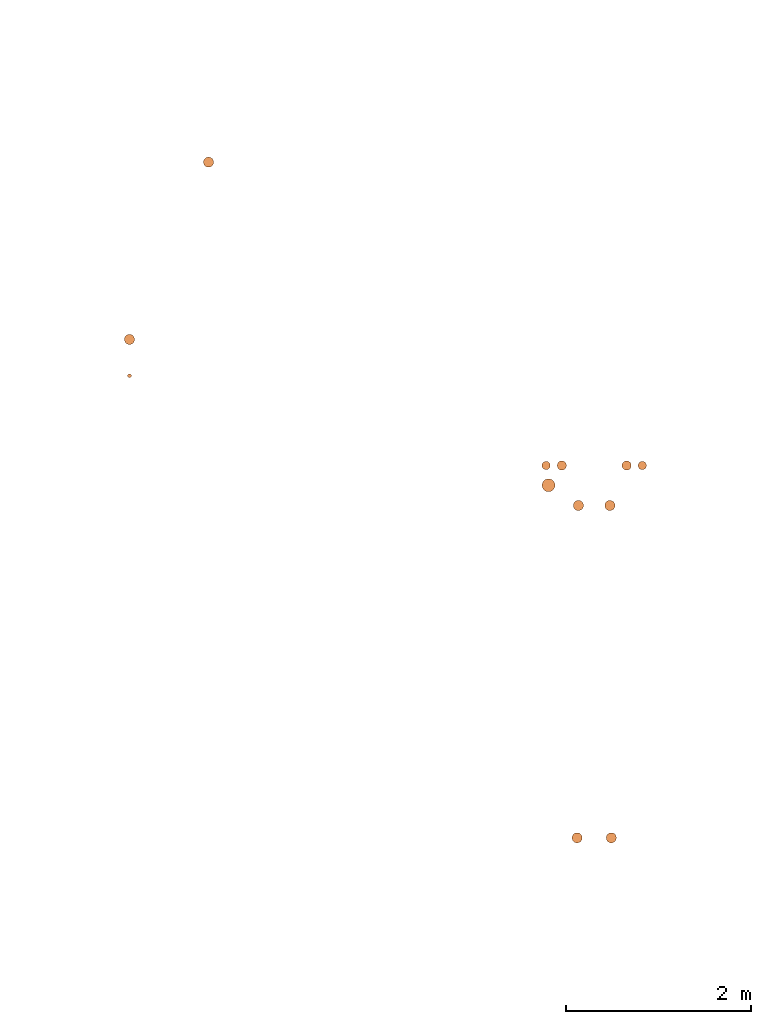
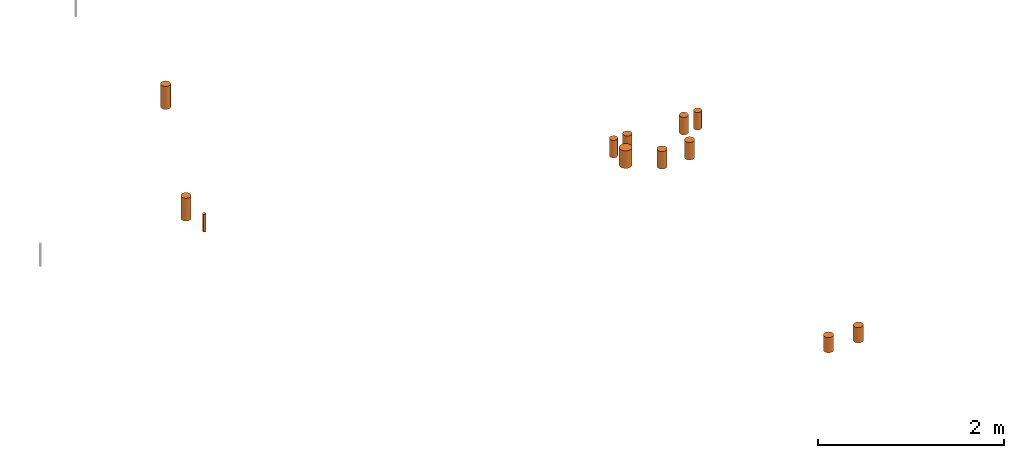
# One storey, part 8 of 16: 12 proxies.
"""IFC2X3 building model written with IfcOpenShell, lengths in centimetres."""

import ifcopenshell
import ifcopenshell.guid

model = None  # the IFC model being written
_history = None  # IfcOwnerHistory: only IFC2X3 demands one
_inside = {}  # id of a spatial element -> (the spatial element, [elements in it])
_under = {}  # id of a project, library or spatial element -> (it, [spatial elements below it])
_declared = {}  # id of a project -> (the project, [libraries it declares])
_typed = {}  # id of a type object -> (the type object, [elements of that type])
_made_of = {}  # id of a material, layer set ... -> (it, [elements and type objects made of it])


def new_model(schema):
    """Start an empty IFC model of exactly this schema.

    Asked for "IFC4X3", IfcOpenShell would pick the latest addendum, in which some entities
    have other attributes; the version numbers below select the first issue.
    IFC2X3 requires an IfcOwnerHistory on every rooted entity: one is made here for all.
    """
    global model, _history
    if schema == "IFC4X3":
        model = ifcopenshell.file(schema_version=(4, 3, 0, 0))
    else:
        model = ifcopenshell.file(schema=schema)
    _inside.clear()
    _under.clear()
    _declared.clear()
    _typed.clear()
    _made_of.clear()
    _history = None
    if model.schema == "IFC2X3":
        org = make("IfcOrganization", Name="unknown")
        user = make(
            "IfcPersonAndOrganization",
            ThePerson=make("IfcPerson", FamilyName="unknown"),
            TheOrganization=org,
        )
        app = make(
            "IfcApplication",
            ApplicationDeveloper=org,
            Version="unknown",
            ApplicationFullName="unknown",
            ApplicationIdentifier="unknown",
        )
        _history = make(
            "IfcOwnerHistory",
            OwningUser=user,
            OwningApplication=app,
            ChangeAction="ADDED",
            CreationDate=0,
        )
    return model


def make(cls, **values):
    """One entity of the class cls with the attributes given. An attribute that is None is left unset."""
    return model.create_entity(
        cls, **{name: value for name, value in values.items() if value is not None}
    )


def entity(cls, *values):
    """Any entity or typed value of the class cls, its attributes in the order of the schema. None: left unset."""
    e = model.create_entity(cls)
    for i, value in enumerate(values):
        if value is not None:
            e[i] = value
    return e


def rooted(cls, **values):
    """An entity with a GlobalId (a new one), such as an element, a storey or a relation."""
    return make(cls, GlobalId=ifcopenshell.guid.new(), OwnerHistory=_history, **values)


def si_unit(unit_type, name, prefix=None):
    """IfcSIUnit, for example si_unit("LENGTHUNIT", "METRE", prefix="MILLI")."""
    return make("IfcSIUnit", UnitType=unit_type, Prefix=prefix, Name=name)


def converted_unit(unit_type, name, factor, base, dimensions=None, offset=None):
    """IfcConversionBasedUnit, such as the inch: factor (a typed value) times the base unit."""
    return make(
        "IfcConversionBasedUnit"
        if offset is None
        else "IfcConversionBasedUnitWithOffset",
        ConversionOffset=offset,
        Dimensions=None
        if dimensions is None
        else entity("IfcDimensionalExponents", *dimensions),
        UnitType=unit_type,
        Name=name,
        ConversionFactor=make(
            "IfcMeasureWithUnit", ValueComponent=factor, UnitComponent=base
        ),
    )


def derived_unit(unit_type, elements):
    """IfcDerivedUnit: a product of units, each with its exponent."""
    return make(
        "IfcDerivedUnit",
        Elements=[
            make("IfcDerivedUnitElement", Unit=unit, Exponent=power)
            for unit, power in elements
        ],
        UnitType=unit_type,
    )


def assignment(units):
    """IfcUnitAssignment: the units of a project."""
    return None if units is None else make("IfcUnitAssignment", Units=units)


def point(xyz):
    """IfcCartesianPoint."""
    return None if xyz is None else make("IfcCartesianPoint", Coordinates=xyz)


def direction(xyz):
    """IfcDirection."""
    return None if xyz is None else make("IfcDirection", DirectionRatios=xyz)


def frame(location, z_axis=None, x_axis=None):
    """IfcAxis2Placement3D, a coordinate frame: its origin and axes. An axis left out is left unset."""
    return make(
        "IfcAxis2Placement3D",
        Location=point(location),
        Axis=direction(z_axis),
        RefDirection=direction(x_axis),
    )


def frame_2d(location, x_axis=None):
    """IfcAxis2Placement2D, a coordinate frame in the plane: its origin and x axis."""
    return make(
        "IfcAxis2Placement2D", Location=point(location), RefDirection=direction(x_axis)
    )


def origin():
    """The frame at (0, 0, 0) with its axes left unset."""
    return frame((0.0, 0.0, 0.0))


def origin_2d_with_axis():
    """The frame at (0, 0) in the plane with the x axis (1, 0) written out."""
    return frame_2d((0.0, 0.0), x_axis=(1.0, 0.0))


def place(relative_to, where):
    """IfcLocalPlacement: puts the frame where relative to a parent placement (None: the world)."""
    return make(
        "IfcLocalPlacement", PlacementRelTo=relative_to, RelativePlacement=where
    )


def context(
    kind, dimensions, precision=None, world=None, true_north=None, identifier=None
):
    """IfcGeometricRepresentationContext, for example the 3D "Model" context."""
    return make(
        "IfcGeometricRepresentationContext",
        ContextIdentifier=identifier,
        ContextType=kind,
        CoordinateSpaceDimension=dimensions,
        Precision=precision,
        WorldCoordinateSystem=world,
        TrueNorth=true_north,
    )


def subcontext(parent, identifier, kind, view, scale=None):
    """IfcGeometricRepresentationSubContext, for example "Body" below "Model"."""
    return make(
        "IfcGeometricRepresentationSubContext",
        ContextIdentifier=identifier,
        ContextType=kind,
        ParentContext=parent,
        TargetScale=scale,
        TargetView=view,
    )


def project(units=None, contexts=None):
    """IfcProject with its units and contexts."""
    return rooted(
        "IfcProject",
        Name="project",
        RepresentationContexts=contexts,
        UnitsInContext=assignment(units),
    )


def spatial(cls, under=None, at=None, **own):
    """A site, building, storey or space (cls), placed at a placement, below another one or the project."""
    s = rooted(cls, ObjectPlacement=at, **own)
    if under is not None:
        _under.setdefault(under.id(), (under, []))[1].append(s)
    return s


def profile(cls, at=None, kind="AREA", **sizes):
    """A parametric profile (cls). Its sizes go by their IFC names, for example OverallWidth=200.0."""
    return make(cls, ProfileType=kind, Position=at, **sizes)


def circle(**sizes):
    """IfcCircleProfileDef."""
    return profile("IfcCircleProfileDef", **sizes)


def extrude(swept, where, along, depth):
    """IfcExtrudedAreaSolid: the profile swept, set in the frame where, extruded along a direction by depth."""
    return make(
        "IfcExtrudedAreaSolid",
        SweptArea=swept,
        Position=where,
        ExtrudedDirection=direction(along),
        Depth=depth,
    )


def shape(context_of_items, identifier, shape_type, items):
    """IfcShapeRepresentation: the items that make up one representation, for example the "Body"."""
    return make(
        "IfcShapeRepresentation",
        ContextOfItems=context_of_items,
        RepresentationIdentifier=identifier,
        RepresentationType=shape_type,
        Items=items,
    )


def source(mapping_origin, context_of_items, identifier, shape_type, items):
    """IfcRepresentationMap: a shape defined once, which mapped items show again and again."""
    return make(
        "IfcRepresentationMap",
        MappingOrigin=mapping_origin,
        MappedRepresentation=shape(context_of_items, identifier, shape_type, items),
    )


def transform(
    local_origin,
    x_axis=None,
    y_axis=None,
    z_axis=None,
    scale=None,
    scale2=None,
    scale3=None,
    uniform=True,
):
    """IfcCartesianTransformationOperator3D, or its non-uniform kind. x_axis, y_axis, z_axis: its Axis1, 2, 3."""
    if uniform:
        return make(
            "IfcCartesianTransformationOperator3D",
            Axis1=direction(x_axis),
            Axis2=direction(y_axis),
            LocalOrigin=point(local_origin),
            Scale=scale,
            Axis3=direction(z_axis),
        )
    return make(
        "IfcCartesianTransformationOperator3DnonUniform",
        Axis1=direction(x_axis),
        Axis2=direction(y_axis),
        LocalOrigin=point(local_origin),
        Scale=scale,
        Axis3=direction(z_axis),
        Scale2=scale2,
        Scale3=scale3,
    )


def mapped(mapping_source, mapping_target):
    """IfcMappedItem: shows the shape of a source again, moved by a transform."""
    return make(
        "IfcMappedItem", MappingSource=mapping_source, MappingTarget=mapping_target
    )


def material(Name=None, Category=None):
    """IfcMaterial."""
    return make("IfcMaterial", Name=Name, Category=Category)


def made_of(thing, what):
    """Note that an element or type object is made of a material, layer set ...; save() writes the relation."""
    if what is not None:
        _made_of.setdefault(what.id(), (what, []))[1].append(thing)
    return thing


def type_object(cls, material=None, **own):
    """A type object (cls), such as IfcWallType, which elements share."""
    return made_of(rooted(cls, **own), material)


def type_shapes(of_type, sources):
    """Give a type object the sources (RepresentationMaps) that its elements show as mapped items."""
    of_type.RepresentationMaps = sources


def element(
    cls,
    number,
    at=None,
    inside=None,
    cuts=None,
    type_object=None,
    material=None,
    context=None,
    identifier="Body",
    shape_type=None,
    held_by="IfcProductDefinitionShape",
    body=None,
    shapes=None,
    **own,
):
    """One element of the class cls, such as IfcWall. Its Tag is "e" and its number.

    at: its placement. inside: the storey or other place that contains it. cuts: it is an
    opening in that element (IfcRelVoidsElement). A single representation is given by context,
    identifier, shape_type and body (its items); several are given by shapes. held_by: the class
    of the entity that holds the representations. save() writes the other relations.
    """
    e = rooted(cls, Tag="e%d" % number, ObjectPlacement=at, **own)
    if body is not None:
        shapes = [shape(context, identifier, shape_type, body)]
    if shapes is not None:
        e.Representation = make(held_by, Representations=shapes)
    if inside is not None:
        _inside.setdefault(inside.id(), (inside, []))[1].append(e)
    if cuts is not None:
        rooted(
            "IfcRelVoidsElement", RelatingBuildingElement=cuts, RelatedOpeningElement=e
        )
    if type_object is not None:
        _typed.setdefault(type_object.id(), (type_object, []))[1].append(e)
    return made_of(e, material)


def aggregate(whole, parts):
    """IfcRelAggregates: a whole, such as a stair, and the parts it consists of."""
    return rooted("IfcRelAggregates", RelatingObject=whole, RelatedObjects=parts)


def save(model, path):
    """Write the relations noted so far, then the file.

    IfcRelAggregates (storeys below a building ...), IfcRelContainedInSpatialStructure (elements
    in a storey), IfcRelDefinesByType, IfcRelAssociatesMaterial and IfcRelDeclares: one each for
    every whole, place, type object, material and project.
    """
    for whole, parts in _under.values():
        aggregate(whole, parts)
    for where, things in _inside.values():
        rooted(
            "IfcRelContainedInSpatialStructure",
            RelatedElements=things,
            RelatingStructure=where,
        )
    for kind, things in _typed.values():
        rooted("IfcRelDefinesByType", RelatedObjects=things, RelatingType=kind)
    for what, things in _made_of.values():
        rooted("IfcRelAssociatesMaterial", RelatedObjects=things, RelatingMaterial=what)
    for by, libraries in _declared.values():
        rooted("IfcRelDeclares", RelatingContext=by, RelatedDefinitions=libraries)
    model.write(path)


model = new_model("IFC2X3")

# Units and contexts
model_context = context("Model", 3, precision=0.001, world=origin(), true_north=direction((6.12303176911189e-17, 1.0)))
body_context = subcontext(model_context, "Body", "Model", "MODEL_VIEW")
ifc_project = project(units=[si_unit("LENGTHUNIT", "METRE", prefix="CENTI"), si_unit("AREAUNIT", "SQUARE_METRE"), si_unit("VOLUMEUNIT", "CUBIC_METRE"), converted_unit("PLANEANGLEUNIT", "DEGREE", entity("IfcRatioMeasure", 0.0174532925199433), si_unit("PLANEANGLEUNIT", "RADIAN"), dimensions=[0, 0, 0, 0, 0, 0, 0]), si_unit("MASSUNIT", "GRAM", prefix="KILO"), derived_unit("MASSDENSITYUNIT", [(si_unit("MASSUNIT", "GRAM", prefix="KILO"), 1), (si_unit("LENGTHUNIT", "METRE"), -3)]), si_unit("TIMEUNIT", "SECOND"), si_unit("FREQUENCYUNIT", "HERTZ"), si_unit("THERMODYNAMICTEMPERATUREUNIT", "DEGREE_CELSIUS"), derived_unit("THERMALTRANSMITTANCEUNIT", [(si_unit("MASSUNIT", "GRAM", prefix="KILO"), 1), (si_unit("THERMODYNAMICTEMPERATUREUNIT", "KELVIN"), -1), (si_unit("TIMEUNIT", "SECOND"), -3)]), derived_unit("VOLUMETRICFLOWRATEUNIT", [(si_unit("LENGTHUNIT", "METRE"), 3), (si_unit("TIMEUNIT", "SECOND"), -1)]), si_unit("ELECTRICCURRENTUNIT", "AMPERE"), si_unit("ELECTRICVOLTAGEUNIT", "VOLT"), si_unit("POWERUNIT", "WATT"), si_unit("FORCEUNIT", "NEWTON"), si_unit("ILLUMINANCEUNIT", "LUX"), si_unit("LUMINOUSFLUXUNIT", "LUMEN"), si_unit("LUMINOUSINTENSITYUNIT", "CANDELA"), derived_unit("USERDEFINED", [(si_unit("MASSUNIT", "GRAM", prefix="KILO"), -1), (si_unit("LENGTHUNIT", "METRE"), -2), (si_unit("TIMEUNIT", "SECOND"), 3), (si_unit("LUMINOUSFLUXUNIT", "LUMEN"), 1)]), derived_unit("LINEARVELOCITYUNIT", [(si_unit("LENGTHUNIT", "METRE"), 1), (si_unit("TIMEUNIT", "SECOND"), -1)]), si_unit("PRESSUREUNIT", "PASCAL"), derived_unit("USERDEFINED", [(si_unit("LENGTHUNIT", "METRE"), -2), (si_unit("MASSUNIT", "GRAM", prefix="KILO"), 1), (si_unit("TIMEUNIT", "SECOND"), -2)])], contexts=[model_context])

# Site, building, storey
site_placement = place(None, origin())
site = spatial("IfcSite", under=ifc_project, at=site_placement, Name="Default", CompositionType="ELEMENT")
building_placement = place(site_placement, origin())
building = spatial("IfcBuilding", under=site, at=building_placement, Name="CAGE 03", CompositionType="ELEMENT")
storey_placement = place(building_placement, frame((0.0, 0.0, 65.0)))
storey = spatial("IfcBuildingStorey", under=building, at=storey_placement, Name="Ac RDC", CompositionType="ELEMENT", Elevation=64.9999999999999)

# Proxies
ifc_material = material(Name="BBGO_Résa")
building_element_proxy_type_1 = type_object("IfcBuildingElementProxyType", Name="Ø110", PredefinedType="NOTDEFINED", material=ifc_material)
shared_shape_1 = source(origin(), body_context, "Body", "SweptSolid", [
    extrude(circle(Radius=5.5, at=origin_2d_with_axis()), frame((7062.86582014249, 3926.65818063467, 295.0)), (0.0, 0.0, 1.0), 19.9999999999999),
])
type_shapes(building_element_proxy_type_1, [shared_shape_1])
proxy_1_placement = place(storey_placement, frame((0.0, 0.0, -65.0)))
element("IfcBuildingElementProxy", 1, at=proxy_1_placement, inside=storey, type_object=building_element_proxy_type_1, material=ifc_material, Name="BBGO-Résa circ dalle:Ø110", ObjectType="Ø110", context=body_context, shape_type="MappedRepresentation", body=[
    mapped(shared_shape_1, transform((0.0, 0.0, 0.0), scale=1.0)),
])
building_element_proxy_type_2 = type_object("IfcBuildingElementProxyType", Name="Ø110", PredefinedType="NOTDEFINED", material=ifc_material)
shared_shape_2 = source(origin(), body_context, "Body", "SweptSolid", [
    extrude(circle(Radius=5.5, at=origin_2d_with_axis()), frame((7099.86582014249, 3926.65818063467, 295.0)), (0.0, 0.0, 1.0), 19.9999999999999),
])
type_shapes(building_element_proxy_type_2, [shared_shape_2])
proxy_2_placement = place(storey_placement, frame((0.0, 0.0, -65.0)))
element("IfcBuildingElementProxy", 2, at=proxy_2_placement, inside=storey, type_object=building_element_proxy_type_2, material=ifc_material, Name="BBGO-Résa circ dalle:Ø110", ObjectType="Ø110", context=body_context, shape_type="MappedRepresentation", body=[
    mapped(shared_shape_2, transform((0.0, 0.0, 0.0), scale=1.0)),
])
building_element_proxy_type_3 = type_object("IfcBuildingElementProxyType", Name="Ø40", PredefinedType="NOTDEFINED", material=ifc_material)
shared_shape_3 = source(origin(), body_context, "Body", "SweptSolid", [
    extrude(circle(Radius=2.0, at=origin_2d_with_axis()), frame((6578.06536059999, 4427.06460404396, 317.0)), (0.0, 0.0, 1.0), 22.9999999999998),
])
type_shapes(building_element_proxy_type_3, [shared_shape_3])
proxy_3_placement = place(storey_placement, frame((0.0, 0.0, -65.0)))
element("IfcBuildingElementProxy", 3, at=proxy_3_placement, inside=storey, type_object=building_element_proxy_type_3, material=ifc_material, Name="BBGO-Résa circ dalle:Ø40", ObjectType="Ø40", context=body_context, shape_type="MappedRepresentation", body=[
    mapped(shared_shape_3, transform((0.0, 0.0, 0.0), scale=1.0)),
])
building_element_proxy_type_4 = type_object("IfcBuildingElementProxyType", Name="Ø110", PredefinedType="NOTDEFINED", material=ifc_material)
shared_shape_4 = source(origin(), body_context, "Body", "SweptSolid", [
    extrude(circle(Radius=5.5, at=origin_2d_with_axis()), frame((6578.06172948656, 4466.40876231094, 310.0)), (0.0, 0.0, 1.0), 29.9999999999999),
])
type_shapes(building_element_proxy_type_4, [shared_shape_4])
proxy_4_placement = place(storey_placement, frame((0.0, 0.0, -65.0)))
element("IfcBuildingElementProxy", 4, at=proxy_4_placement, inside=storey, type_object=building_element_proxy_type_4, material=ifc_material, Name="BBGO-Résa circ dalle:Ø110", ObjectType="Ø110", context=body_context, shape_type="MappedRepresentation", body=[
    mapped(shared_shape_4, transform((0.0, 0.0, 0.0), scale=1.0)),
])
building_element_proxy_type_5 = type_object("IfcBuildingElementProxyType", Name="Ø110", PredefinedType="NOTDEFINED", material=ifc_material)
shared_shape_5 = source(origin(), body_context, "Body", "SweptSolid", [
    extrude(circle(Radius=5.5, at=origin_2d_with_axis()), frame((6663.71334387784, 4658.39126333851, 310.0)), (0.0, 0.0, 1.0), 29.9999999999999),
])
type_shapes(building_element_proxy_type_5, [shared_shape_5])
proxy_5_placement = place(storey_placement, frame((0.0, 0.0, -65.0)))
element("IfcBuildingElementProxy", 5, at=proxy_5_placement, inside=storey, type_object=building_element_proxy_type_5, material=ifc_material, Name="BBGO-Résa circ dalle:Ø110", ObjectType="Ø110", context=body_context, shape_type="MappedRepresentation", body=[
    mapped(shared_shape_5, transform((0.0, 0.0, 0.0), scale=1.0)),
])
building_element_proxy_type_6 = type_object("IfcBuildingElementProxyType", Name="Ø140", PredefinedType="NOTDEFINED", material=ifc_material)
shared_shape_6 = source(origin(), body_context, "Body", "SweptSolid", [
    extrude(circle(Radius=7.0, at=origin_2d_with_axis()), frame((7031.8737139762, 4308.45874824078, 317.0)), (0.0, 0.0, 1.0), 22.9999999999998),
])
type_shapes(building_element_proxy_type_6, [shared_shape_6])
proxy_6_placement = place(storey_placement, frame((0.0, 0.0, -65.0)))
element("IfcBuildingElementProxy", 6, at=proxy_6_placement, inside=storey, type_object=building_element_proxy_type_6, material=ifc_material, Name="BBGO-Résa circ dalle:Ø140", ObjectType="Ø140", context=body_context, shape_type="MappedRepresentation", body=[
    mapped(shared_shape_6, transform((0.0, 0.0, 0.0), scale=1.0)),
])
building_element_proxy_type_7 = type_object("IfcBuildingElementProxyType", Name="Ø110", PredefinedType="NOTDEFINED", material=ifc_material)
shared_shape_7 = source(origin(), body_context, "Body", "SweptSolid", [
    extrude(circle(Radius=5.5, at=origin_2d_with_axis()), frame((7064.30052829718, 4286.58658580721, 317.0)), (0.0, 0.0, 1.0), 22.9999999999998),
])
type_shapes(building_element_proxy_type_7, [shared_shape_7])
proxy_7_placement = place(storey_placement, frame((0.0, 0.0, -65.0)))
element("IfcBuildingElementProxy", 7, at=proxy_7_placement, inside=storey, type_object=building_element_proxy_type_7, material=ifc_material, Name="BBGO-Résa circ dalle:Ø110", ObjectType="Ø110", context=body_context, shape_type="MappedRepresentation", body=[
    mapped(shared_shape_7, transform((0.0, 0.0, 0.0), scale=1.0)),
])
building_element_proxy_type_8 = type_object("IfcBuildingElementProxyType", Name="Ø110", PredefinedType="NOTDEFINED", material=ifc_material)
shared_shape_8 = source(origin(), body_context, "Body", "SweptSolid", [
    extrude(circle(Radius=5.5, at=origin_2d_with_axis()), frame((7098.36203043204, 4286.58036411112, 317.0)), (0.0, 0.0, 1.0), 22.9999999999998),
])
type_shapes(building_element_proxy_type_8, [shared_shape_8])
proxy_8_placement = place(storey_placement, frame((0.0, 0.0, -65.0)))
element("IfcBuildingElementProxy", 8, at=proxy_8_placement, inside=storey, type_object=building_element_proxy_type_8, material=ifc_material, Name="BBGO-Résa circ dalle:Ø110", ObjectType="Ø110", context=body_context, shape_type="MappedRepresentation", body=[
    mapped(shared_shape_8, transform((0.0, 0.0, 0.0), scale=1.0)),
])
building_element_proxy_type_9 = type_object("IfcBuildingElementProxyType", Name="Ø100", PredefinedType="NOTDEFINED", material=ifc_material)
shared_shape_9 = source(origin(), body_context, "Body", "SweptSolid", [
    extrude(circle(Radius=5.0, at=origin_2d_with_axis()), frame((7116.44870812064, 4329.86526421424, 317.0)), (0.0, 0.0, 1.0), 22.9999999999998),
])
type_shapes(building_element_proxy_type_9, [shared_shape_9])
proxy_9_placement = place(storey_placement, frame((0.0, 0.0, -65.0)))
element("IfcBuildingElementProxy", 9, at=proxy_9_placement, inside=storey, type_object=building_element_proxy_type_9, material=ifc_material, Name="BBGO-Résa circ dalle:Ø100", ObjectType="Ø100", context=body_context, shape_type="MappedRepresentation", body=[
    mapped(shared_shape_9, transform((0.0, 0.0, 0.0), scale=1.0)),
])
building_element_proxy_type_10 = type_object("IfcBuildingElementProxyType", Name="Ø90", PredefinedType="NOTDEFINED", material=ifc_material)
shared_shape_10 = source(origin(), body_context, "Body", "SweptSolid", [
    extrude(circle(Radius=4.5, at=origin_2d_with_axis()), frame((7133.44860425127, 4329.86526421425, 317.0)), (0.0, 0.0, 1.0), 22.9999999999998),
])
type_shapes(building_element_proxy_type_10, [shared_shape_10])
proxy_10_placement = place(storey_placement, frame((0.0, 0.0, -65.0)))
element("IfcBuildingElementProxy", 10, at=proxy_10_placement, inside=storey, type_object=building_element_proxy_type_10, material=ifc_material, Name="BBGO-Résa circ dalle:Ø90", ObjectType="Ø90", context=body_context, shape_type="MappedRepresentation", body=[
    mapped(shared_shape_10, transform((0.0, 0.0, 0.0), scale=1.0)),
])
building_element_proxy_type_11 = type_object("IfcBuildingElementProxyType", Name="Ø100", PredefinedType="NOTDEFINED", material=ifc_material)
shared_shape_11 = source(origin(), body_context, "Body", "SweptSolid", [
    extrude(circle(Radius=5.0, at=origin_2d_with_axis()), frame((7046.26768929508, 4329.86526421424, 317.0)), (0.0, 0.0, 1.0), 22.9999999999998),
])
type_shapes(building_element_proxy_type_11, [shared_shape_11])
proxy_11_placement = place(storey_placement, frame((0.0, 0.0, -65.0)))
element("IfcBuildingElementProxy", 11, at=proxy_11_placement, inside=storey, type_object=building_element_proxy_type_11, material=ifc_material, Name="BBGO-Résa circ dalle:Ø100", ObjectType="Ø100", context=body_context, shape_type="MappedRepresentation", body=[
    mapped(shared_shape_11, transform((0.0, 0.0, 0.0), scale=1.0)),
])
building_element_proxy_type_12 = type_object("IfcBuildingElementProxyType", Name="Ø90", PredefinedType="NOTDEFINED", material=ifc_material)
shared_shape_12 = source(origin(), body_context, "Body", "SweptSolid", [
    extrude(circle(Radius=4.5, at=origin_2d_with_axis()), frame((7029.26768929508, 4329.86526421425, 317.0)), (0.0, 0.0, 1.0), 22.9999999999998),
])
type_shapes(building_element_proxy_type_12, [shared_shape_12])
proxy_12_placement = place(storey_placement, frame((0.0, 0.0, -65.0)))
element("IfcBuildingElementProxy", 12, at=proxy_12_placement, inside=storey, type_object=building_element_proxy_type_12, material=ifc_material, Name="BBGO-Résa circ dalle:Ø90", ObjectType="Ø90", context=body_context, shape_type="MappedRepresentation", body=[
    mapped(shared_shape_12, transform((0.0, 0.0, 0.0), scale=1.0)),
])

save(model, "model.ifc")
